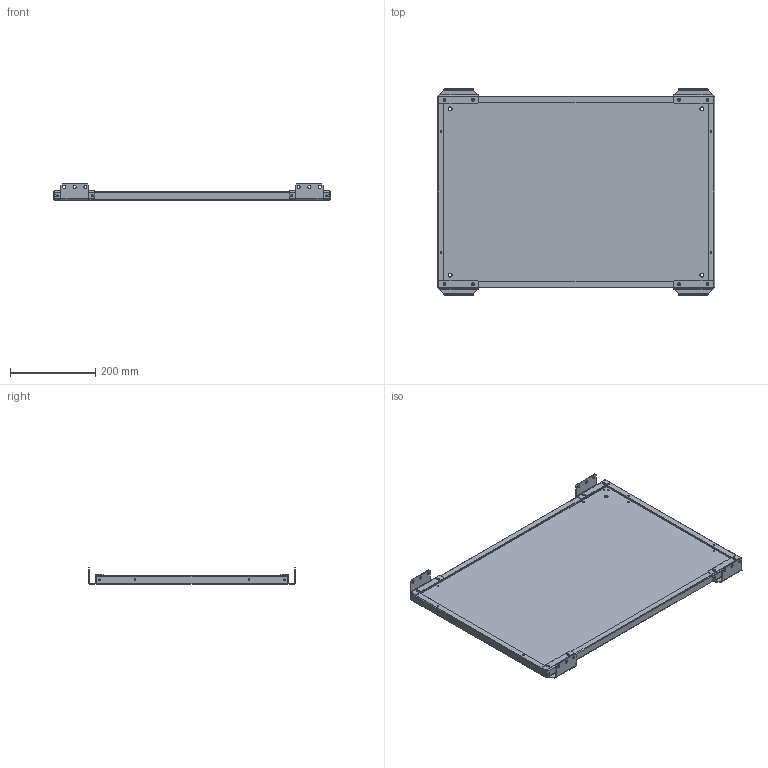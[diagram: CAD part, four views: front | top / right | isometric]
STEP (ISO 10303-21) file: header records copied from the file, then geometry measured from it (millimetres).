
FILE_DESCRIPTION (( 'STEP AP203' ), '1' );
FILE_NAME ('MP 65.45 M Ïàíåëü ìîíòàæíàÿ ñåêöèîííàÿ (ãîðèçîíòàëüíîå êðåïëåíèå).STEP', '2021-04-06T07:13:21', ( '' ), ( '' ), 'SwSTEP 2.0', 'SolidWorks 2018', '' );
FILE_SCHEMA (( 'CONFIG_CONTROL_DESIGN' ));
Length unit declared in the file: millimetre
Products named in the file (1): MP 65.45 M Ïàíåëü ìîíòàæíàÿ ñåêöèîííàÿ (ãîðèçîíòàëüíîå êðåïëåíèå)
Bounding box: 650 x 485 x 37.75 mm (x, y, z)
Volume: 766901.9 mm3; surface area: 776204.2 mm2
Topology: 5 solids, 5 shells, 388 faces, 1016 edges, 632 vertices
Faces by surface type: cylinder 196, plane 168, bspline 16, sphere 8
Entity records: 12713 total; most frequent: CARTESIAN_POINT 2749, DIRECTION 2050, ORIENTED_EDGE 2016, EDGE_CURVE 1008, AXIS2_PLACEMENT_3D 733, VERTEX_POINT 632, VECTOR 584, LINE 584
